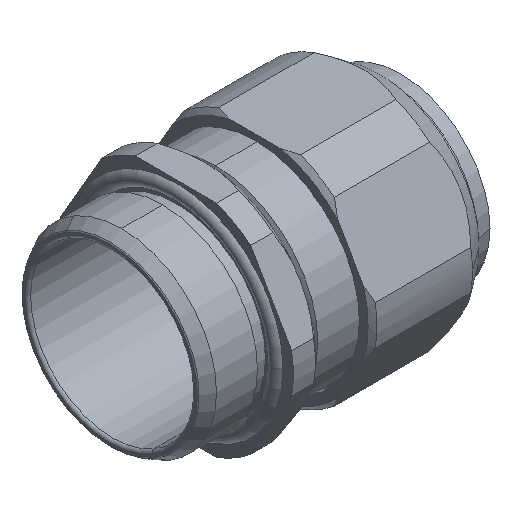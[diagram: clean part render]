
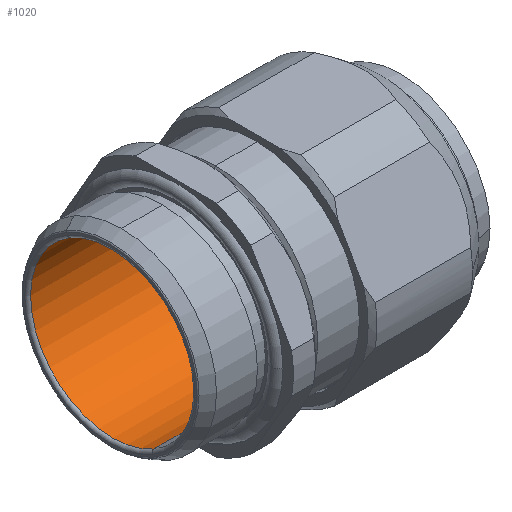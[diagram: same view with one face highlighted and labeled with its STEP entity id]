
A CAD part, isometric view. The second image highlights one B-rep face of the part: STEP entity #1020.
In plain terms, the highlighted cylindrical face has radius 5.6 mm (diameter 11.2 mm), a partial arc.
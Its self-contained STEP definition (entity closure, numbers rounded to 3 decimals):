
#470=CARTESIAN_POINT('',(-4.3,-4.85,2.8));
#480=VERTEX_POINT('656201-1634192109-14cb19c6d37b-0 1646766',#470);
#570=CARTESIAN_POINT('',(-4.3,4.85,-2.8));
#580=VERTEX_POINT('',#570);
#610=CARTESIAN_POINT('',(-4.3,0.,0.
));
#620=DIRECTION('',(-1.,0.,0.));
#630=DIRECTION('',(0.,-0.866,
0.5));
#640=AXIS2_PLACEMENT_3D('',#610,#620,#630);
#650=CIRCLE('',#640,5.6);
#660=EDGE_CURVE('656201-1634192109-14cb19c6d37b-0 1646764',#580,#480,
#650,.T.);
#710=CARTESIAN_POINT('',(1.15,0.,0.
));
#720=DIRECTION('',(1.,0.,0.));
#730=DIRECTION('',(0.,0.866,-0.5));
#740=AXIS2_PLACEMENT_3D('',#710,#720,#730);
#750=CYLINDRICAL_SURFACE('',#740,5.6);
#760=CARTESIAN_POINT('',(1.15,-4.85,2.8));
#770=DIRECTION('',(1.,0.,0.));
#780=VECTOR('',#770,1.);
#790=LINE('',#760,#780);
#800=CARTESIAN_POINT('',(6.6,-4.85,2.8));
#810=VERTEX_POINT('656201-1634192109-14cb19c6d37b-0 1647646',#800);
#820=EDGE_CURVE('',#480,#810,#790,.T.);
#830=ORIENTED_EDGE('',*,*,#820,.T.);
#840=ORIENTED_EDGE('',*,*,#660,.T.);
#850=CARTESIAN_POINT('',(1.15,4.85,-2.8));
#860=DIRECTION('',(1.,0.,0.));
#870=VECTOR('',#860,1.);
#880=LINE('',#850,#870);
#890=CARTESIAN_POINT('',(6.6,4.85,-2.8));
#900=VERTEX_POINT('',#890);
#910=EDGE_CURVE('',#580,#900,#880,.T.);
#920=ORIENTED_EDGE('',*,*,#910,.F.);
#930=CARTESIAN_POINT('',(6.6,0.,0.)
);
#940=DIRECTION('',(-1.,0.,0.));
#950=DIRECTION('',(0.,-0.866,
0.5));
#960=AXIS2_PLACEMENT_3D('',#930,#940,#950);
#970=CIRCLE('',#960,5.6);
#980=EDGE_CURVE('656201-1634192109-14cb19c6d37b-0 1647644',#900,#810,
#970,.T.);
#990=ORIENTED_EDGE('',*,*,#980,.F.);
#1000=EDGE_LOOP('',(#990,#920,#840,#830));
#1010=FACE_OUTER_BOUND('',#1000,.T.);
#1020=ADVANCED_FACE('656201-1634192109-14cb19c6d37b-0 1646773',(#1010),
#750,.F.);
